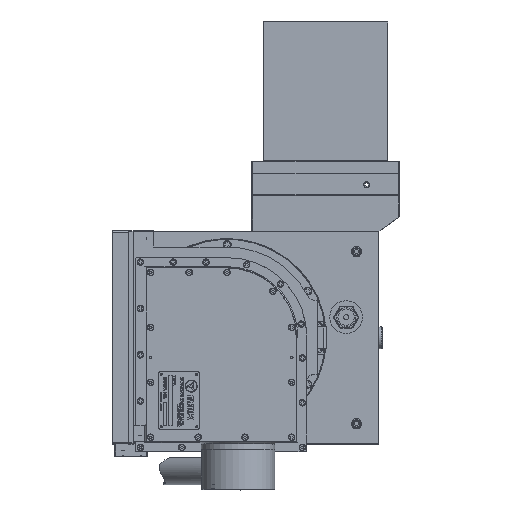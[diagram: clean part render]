
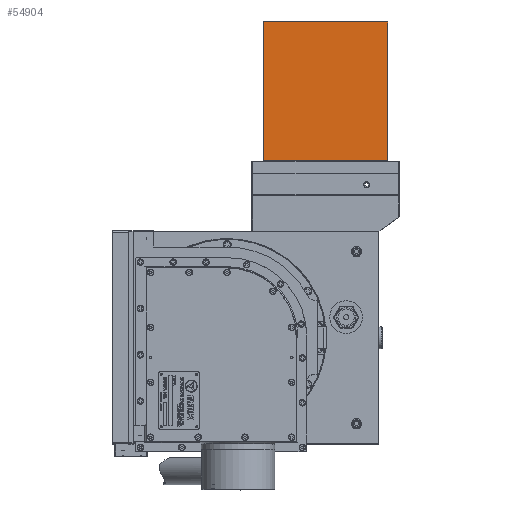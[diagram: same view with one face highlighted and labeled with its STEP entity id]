
A CAD part, top view. The second image highlights one B-rep face of the part: STEP entity #54904.
In plain terms, the highlighted planar face has unit normal (0, 0, 1).
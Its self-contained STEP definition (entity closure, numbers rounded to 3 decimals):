
#8188 = VECTOR ( 'NONE', #17688, 1000. ) ;
#8612 = CARTESIAN_POINT ( 'NONE',  ( 195.8, 357.726, -142.7 ) ) ;
#9558 = VERTEX_POINT ( 'NONE', #60571 ) ;
#12425 = ORIENTED_EDGE ( 'NONE', *, *, #13109, .T. ) ;
#13109 = EDGE_CURVE ( 'NONE', #50940, #43156, #34934, .T. ) ;
#14787 = ORIENTED_EDGE ( 'NONE', *, *, #23820, .F. ) ;
#17479 = VECTOR ( 'NONE', #25344, 1000. ) ;
#17688 = DIRECTION ( 'NONE',  ( 1., 0., 0. ) ) ;
#17736 = VECTOR ( 'NONE', #44645, 1000. ) ;
#18068 = ORIENTED_EDGE ( 'NONE', *, *, #28966, .T. ) ;
#20614 = CARTESIAN_POINT ( 'NONE',  ( 44.2, 357.726, -142.7 ) ) ;
#23820 = EDGE_CURVE ( 'NONE', #50940, #9558, #50117, .T. ) ;
#24194 = CARTESIAN_POINT ( 'NONE',  ( 44.2, 357.726, -142.7 ) ) ;
#25344 = DIRECTION ( 'NONE',  ( 1., 0., 0. ) ) ;
#28966 = EDGE_CURVE ( 'NONE', #43156, #53034, #43163, .T. ) ;
#30346 = DIRECTION ( 'NONE',  ( 0., -1., 0. ) ) ;
#31233 = PLANE ( 'NONE',  #59132 ) ;
#32200 = EDGE_LOOP ( 'NONE', ( #18068, #45947, #14787, #12425 ) ) ;
#34350 = EDGE_CURVE ( 'NONE', #9558, #53034, #65439, .T. ) ;
#34934 = LINE ( 'NONE', #24194, #17736 ) ;
#35637 = CARTESIAN_POINT ( 'NONE',  ( 44.2, 357.726, -142.7 ) ) ;
#39761 = CARTESIAN_POINT ( 'NONE',  ( 44.2, 187.726, -142.7 ) ) ;
#43156 = VERTEX_POINT ( 'NONE', #39761 ) ;
#43163 = LINE ( 'NONE', #63517, #8188 ) ;
#44645 = DIRECTION ( 'NONE',  ( 0., -1., 0. ) ) ;
#45947 = ORIENTED_EDGE ( 'NONE', *, *, #34350, .F. ) ;
#46433 = CARTESIAN_POINT ( 'NONE',  ( 195.8, 187.726, -142.7 ) ) ;
#50117 = LINE ( 'NONE', #20614, #17479 ) ;
#50940 = VERTEX_POINT ( 'NONE', #66135 ) ;
#51008 = DIRECTION ( 'NONE',  ( 0., 1., 0. ) ) ;
#53034 = VERTEX_POINT ( 'NONE', #46433 ) ;
#54904 = ADVANCED_FACE ( 'NONE', ( #61337 ), #31233, .F. ) ;
#56026 = DIRECTION ( 'NONE',  ( 0., 0., -1. ) ) ;
#59132 = AXIS2_PLACEMENT_3D ( 'NONE', #35637, #56026, #51008 ) ;
#60571 = CARTESIAN_POINT ( 'NONE',  ( 195.8, 357.726, -142.7 ) ) ;
#61337 = FACE_OUTER_BOUND ( 'NONE', #32200, .T. ) ;
#61920 = VECTOR ( 'NONE', #30346, 1000. ) ;
#63517 = CARTESIAN_POINT ( 'NONE',  ( 44.2, 187.726, -142.7 ) ) ;
#65439 = LINE ( 'NONE', #8612, #61920 ) ;
#66135 = CARTESIAN_POINT ( 'NONE',  ( 44.2, 357.726, -142.7 ) ) ;
